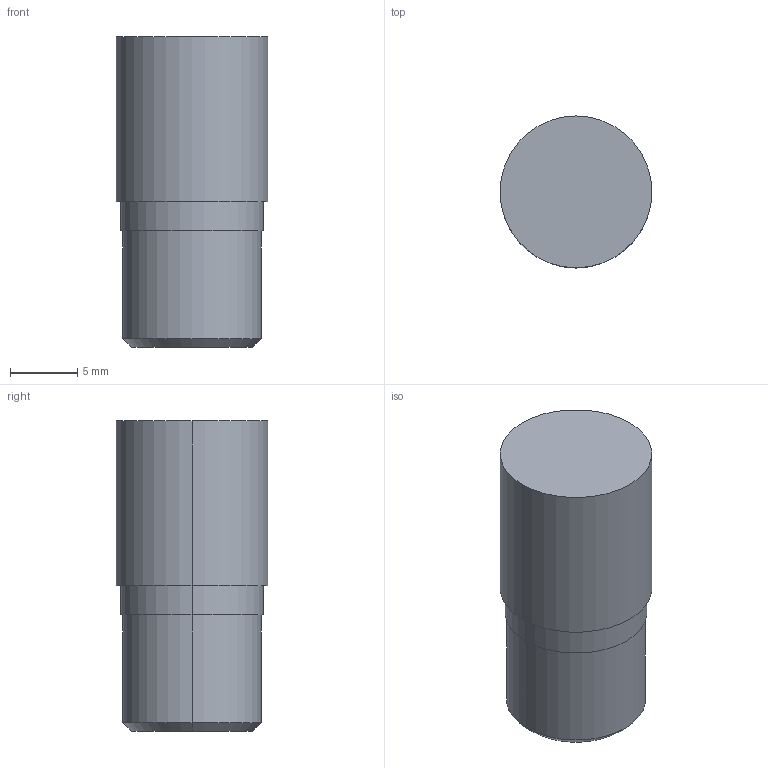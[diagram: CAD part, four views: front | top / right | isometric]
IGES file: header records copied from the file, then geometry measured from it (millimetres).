
Global section: file name: C:\Documents and Settings\Administrator\My Documents\PersonalProject\smcmuffler.igs; native system: AutoDesk Inventor R2.0 ; preprocessor: AutoDesk Inventor Iges Exporter R2.0; author: No Author specified; organization: No Organization specified; date: 20020115.192155; units: inch
Bounding box: 11.28 x 11.28 x 23.05 mm (x, y, z)
Surface area: 1098.3 mm2 (no closed solid volume)
Topology: 0 solids, 0 shells, 15 faces, 56 edges, 56 vertices
Faces by surface type: revolution 10, bspline 5
